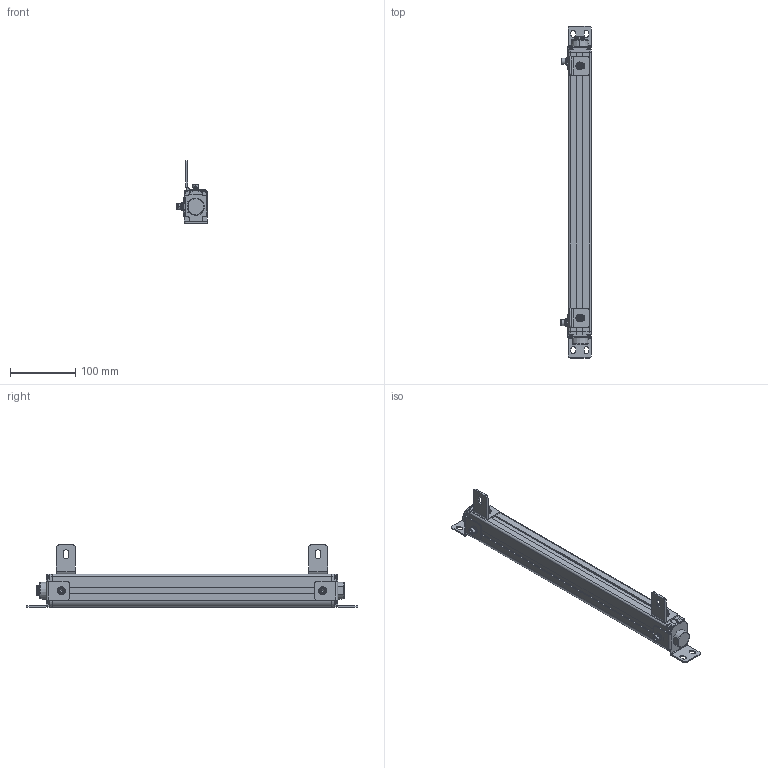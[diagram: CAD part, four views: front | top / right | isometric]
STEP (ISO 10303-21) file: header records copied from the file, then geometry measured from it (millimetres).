
FILE_DESCRIPTION((''),'2;1');
FILE_NAME('ESN--000_ASM','2021-08-10T21:15:16',('18720616900'),(''),'CREO PARAMETRIC BY PTC INC, 2019010','CREO PARAMETRIC BY PTC INC, 2019010','');
FILE_SCHEMA(('CONFIG_CONTROL_DESIGN'));
Length unit declared in the file: millimetre
Products named in the file (22): 00; 000; _0001; 4000; 4--0001; ESN_40001_ASM; L10001; M6-8--0001; M6-1--00; M6-1-00; M6-80001_ASM; L1--0001_ASM; _0002; 0005; ST-3-120001; H1--000; H1--0001_ASM; H1--0003_ASM; ESN--000_ASM
Assembly tree (34 placements, depth 4):
  ESN--000_ASM
    00
    000
    _0001
    000
    ESN_40001_ASM
      4000
      4--0001  x4
    L1--0001_ASM  x2
      L10001
      M6-80001_ASM
        M6-8--0001
        M6-1--00
        M6-1-00
        00
    _0002
    0005
    ST-3-120001  x8
    H1--0001_ASM
      H1--000
      M6-80001_ASM
        M6-8--0001
        M6-1--00
        M6-1-00
        00
    H1--0003_ASM
      H1--000
      M6-80001_ASM
        M6-8--0001
        M6-1--00
        M6-1-00
        00
Bounding box: 46.5 x 507 x 94.95 mm (x, y, z)
Volume: 697106.6 mm3; surface area: 168216.2 mm2
Topology: 39 solids, 39 shells, 1727 faces, 4555 edges, 2925 vertices
Faces by surface type: plane 541, cylinder 404, bspline 362, cone 291, torus 105, sphere 24
Entity records: 45714 total; most frequent: CARTESIAN_POINT 24222, ORIENTED_EDGE 4766, DIRECTION 3842, EDGE_CURVE 2383, VERTEX_POINT 1546, AXIS2_PLACEMENT_3D 1400, VECTOR 1042, LINE 1042
